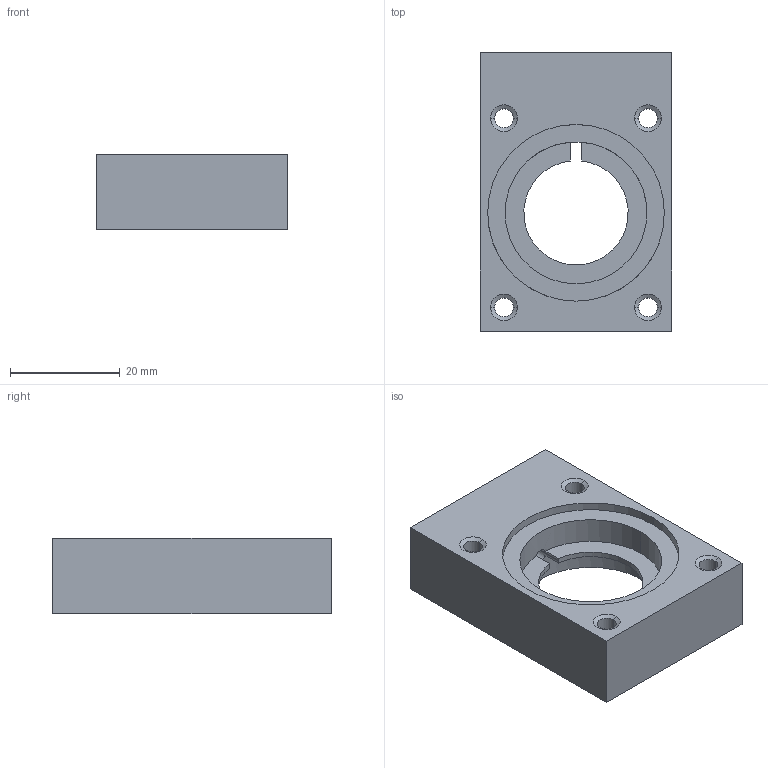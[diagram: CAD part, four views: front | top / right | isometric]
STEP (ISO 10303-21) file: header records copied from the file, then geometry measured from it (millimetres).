
FILE_DESCRIPTION(('Creo Elements/Direct Modeling STEP Export'),'2;1');
FILE_NAME('003-1319(2) (Ti cell 1mm).stp','2018-05-08T11:24:06',(''),(''),'PTC Creo Elements/Direct Modeling STEP processor for AP214 (Solid Model)','PTC Creo Elements/Direct Modeling 19.0E 27-Jun-2016 (C) Parametric Technology GmbH','');
FILE_SCHEMA(('AUTOMOTIVE_DESIGN { 1 0 10303 214 1 1 1 1 }'));
Length unit declared in the file: millimetre
Products named in the file (1): cg_1mmcell_body_nu
Bounding box: 34.92 x 50.8 x 13.72 mm (x, y, z)
Volume: 15684.3 mm3; surface area: 7227.2 mm2
Topology: 1 solids, 1 shells, 100 faces, 1177 edges, 1118 vertices
Faces by surface type: plane 49, cylinder 27, cone 24
Entity records: 11402 total; most frequent: CARTESIAN_POINT 2615, ORIENTED_EDGE 2350, DIRECTION 1287, EDGE_CURVE 1175, VERTEX_POINT 1118, VECTOR 1095, LINE 1095, EDGE_LOOP 153
